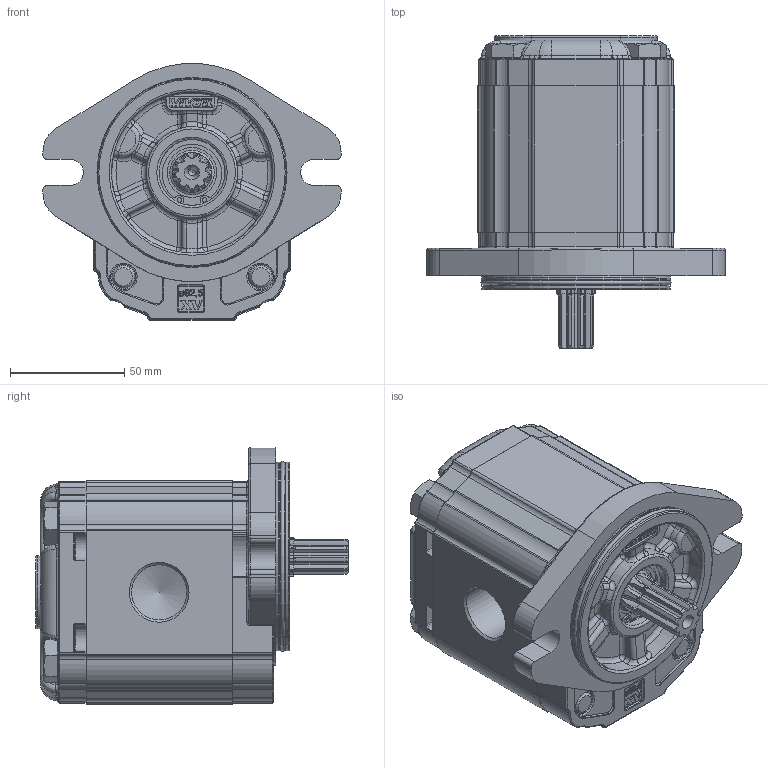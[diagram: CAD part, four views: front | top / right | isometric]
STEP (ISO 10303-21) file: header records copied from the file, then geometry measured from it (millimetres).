
FILE_DESCRIPTION(/* description */ ('Unknown'),/* implementation_level */ '2;1');
FILE_NAME(/* name */ 'X2R4931ICCE',/* time_stamp */ '2021-04-26T17:02:54+02:00',/* author */ ('Unknown'),/* organization */ ('Unknown'),/* preprocessor_version */ 'ST-DEVELOPER v16.7',/* originating_system */ 'Solid Edge',/* authorisation */ 'Unknown');
FILE_SCHEMA (('AUTOMOTIVE_DESIGN {1 0 10303 214 3 1 1}'));
Products named in the file (5): X2R4931ICCE; X2R31; 2I; X2CCH64; XR219-E
Assembly tree (4 placements, depth 2):
  X2R4931ICCE
    X2R31
    2I
    X2CCH64
    XR219-E
Bounding box: 130.38 x 136.7 x 112.3 mm (x, y, z)
Volume: 789754.7 mm3; surface area: 105583.4 mm2
Topology: 4 solids, 5 shells, 1541 faces, 3896 edges, 2430 vertices
Faces by surface type: plane 598, cylinder 431, bspline 210, torus 200, cone 76, sphere 26
Full cylindrical faces by diameter (mm): 2 x2, 11 x2, 11.445 x1, 16 x4, 17.42 x1, 17.48 x2, 18.724 x1, 20.595 x1, 21.741 x1, 24.117 x2, 25.834 x1, 28.56 x1, 28.57 x1, 28.8 x1, 30.4 x1, 79.6 x2, 82.5 x2
Entity records: 58553 total; most frequent: CARTESIAN_POINT 12877, ORIENTED_EDGE 7592, DIRECTION 7246, EDGE_CURVE 3796, AXIS2_PLACEMENT_3D 2667, VERTEX_POINT 2398, LINE 1912, VECTOR 1912
